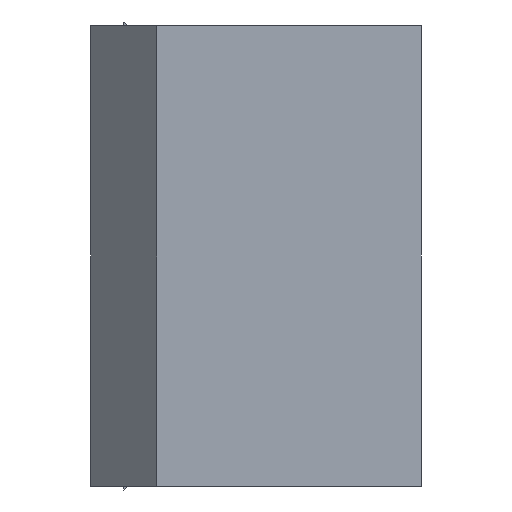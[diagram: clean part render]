
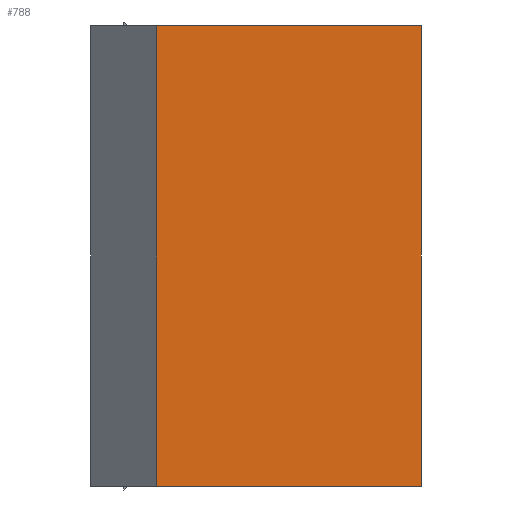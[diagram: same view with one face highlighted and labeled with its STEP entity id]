
A CAD part, left-side view. The second image highlights one B-rep face of the part: STEP entity #788.
In plain terms, the highlighted planar face has unit normal (-1, 0, 0).
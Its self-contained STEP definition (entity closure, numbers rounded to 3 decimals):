
#73 = VERTEX_POINT ( 'NONE', #1504 ) ;
#86 = CARTESIAN_POINT ( 'NONE',  ( -33.65, -15., -10.46 ) ) ;
#168 = VERTEX_POINT ( 'NONE', #203 ) ;
#170 = DIRECTION ( 'NONE',  ( 0., -1., 0. ) ) ;
#182 = ORIENTED_EDGE ( 'NONE', *, *, #911, .T. ) ;
#185 = CARTESIAN_POINT ( 'NONE',  ( -33.65, -3., -10.46 ) ) ;
#203 = CARTESIAN_POINT ( 'NONE',  ( -33.65, -3., 10.46 ) ) ;
#300 = VECTOR ( 'NONE', #170, 1000. ) ;
#322 = AXIS2_PLACEMENT_3D ( 'NONE', #1633, #432, #1597 ) ;
#367 = DIRECTION ( 'NONE',  ( 0., 0., 1. ) ) ;
#387 = CARTESIAN_POINT ( 'NONE',  ( -33.65, -15., -10.46 ) ) ;
#426 = LINE ( 'NONE', #387, #1105 ) ;
#432 = DIRECTION ( 'NONE',  ( -1., 0., 0. ) ) ;
#467 = VECTOR ( 'NONE', #790, 1000. ) ;
#482 = VECTOR ( 'NONE', #1263, 1000. ) ;
#602 = FACE_OUTER_BOUND ( 'NONE', #1181, .T. ) ;
#700 = VERTEX_POINT ( 'NONE', #895 ) ;
#781 = CARTESIAN_POINT ( 'NONE',  ( -33.65, -3., 10.46 ) ) ;
#788 = ADVANCED_FACE ( 'NONE', ( #602 ), #1622, .T. ) ;
#790 = DIRECTION ( 'NONE',  ( 0., -1., 0. ) ) ;
#826 = EDGE_CURVE ( 'NONE', #700, #168, #833, .T. ) ;
#833 = LINE ( 'NONE', #1414, #482 ) ;
#895 = CARTESIAN_POINT ( 'NONE',  ( -33.65, -3., -10.46 ) ) ;
#911 = EDGE_CURVE ( 'NONE', #977, #73, #426, .T. ) ;
#940 = EDGE_CURVE ( 'NONE', #700, #977, #1468, .T. ) ;
#977 = VERTEX_POINT ( 'NONE', #86 ) ;
#1105 = VECTOR ( 'NONE', #367, 1000. ) ;
#1181 = EDGE_LOOP ( 'NONE', ( #182, #1365, #1573, #1184 ) ) ;
#1184 = ORIENTED_EDGE ( 'NONE', *, *, #940, .T. ) ;
#1263 = DIRECTION ( 'NONE',  ( 0., 0., 1. ) ) ;
#1365 = ORIENTED_EDGE ( 'NONE', *, *, #1433, .F. ) ;
#1414 = CARTESIAN_POINT ( 'NONE',  ( -33.65, -3., -10.46 ) ) ;
#1433 = EDGE_CURVE ( 'NONE', #168, #73, #1507, .T. ) ;
#1468 = LINE ( 'NONE', #185, #300 ) ;
#1504 = CARTESIAN_POINT ( 'NONE',  ( -33.65, -15., 10.46 ) ) ;
#1507 = LINE ( 'NONE', #781, #467 ) ;
#1573 = ORIENTED_EDGE ( 'NONE', *, *, #826, .F. ) ;
#1597 = DIRECTION ( 'NONE',  ( 0., 0., 1. ) ) ;
#1622 = PLANE ( 'NONE',  #322 ) ;
#1633 = CARTESIAN_POINT ( 'NONE',  ( -33.65, -3., -10.46 ) ) ;
